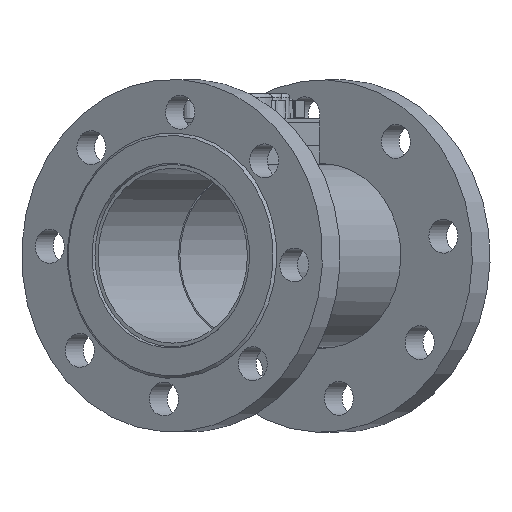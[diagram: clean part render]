
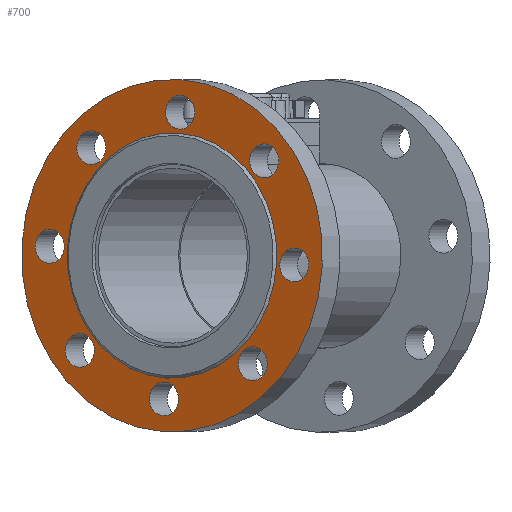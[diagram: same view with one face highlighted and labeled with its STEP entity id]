
A CAD part, top view. The second image highlights one B-rep face of the part: STEP entity #700.
In plain terms, the highlighted planar face has unit normal (-0.522, 0, 0.853) as drawn and (0, 0, 1) by its records, which use the part's own axes.
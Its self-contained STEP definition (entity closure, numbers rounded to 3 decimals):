
#700 = ADVANCED_FACE( '', ( #1462, #1463, #1464, #1465, #1466, #1467, #1468, #1469, #1470, #1471 ), #1472, .T. );
#1462 = FACE_BOUND( '', #4213, .T. );
#1463 = FACE_BOUND( '', #4214, .T. );
#1464 = FACE_BOUND( '', #4215, .T. );
#1465 = FACE_BOUND( '', #4216, .T. );
#1466 = FACE_BOUND( '', #4217, .T. );
#1467 = FACE_BOUND( '', #4218, .T. );
#1468 = FACE_BOUND( '', #4219, .T. );
#1469 = FACE_BOUND( '', #4220, .T. );
#1470 = FACE_OUTER_BOUND( '', #4221, .T. );
#1471 = FACE_BOUND( '', #4222, .T. );
#1472 = PLANE( '', #4223 );
#4213 = EDGE_LOOP( '', ( #6847 ) );
#4214 = EDGE_LOOP( '', ( #6848 ) );
#4215 = EDGE_LOOP( '', ( #6849 ) );
#4216 = EDGE_LOOP( '', ( #6850 ) );
#4217 = EDGE_LOOP( '', ( #6851 ) );
#4218 = EDGE_LOOP( '', ( #6852 ) );
#4219 = EDGE_LOOP( '', ( #6853 ) );
#4220 = EDGE_LOOP( '', ( #6854 ) );
#4221 = EDGE_LOOP( '', ( #6855 ) );
#4222 = EDGE_LOOP( '', ( #6856 ) );
#4223 = AXIS2_PLACEMENT_3D( '', #6857, #6858, #6859 );
#6847 = ORIENTED_EDGE( '', *, *, #8044, .T. );
#6848 = ORIENTED_EDGE( '', *, *, #8090, .T. );
#6849 = ORIENTED_EDGE( '', *, *, #8141, .T. );
#6850 = ORIENTED_EDGE( '', *, *, #8483, .T. );
#6851 = ORIENTED_EDGE( '', *, *, #8484, .T. );
#6852 = ORIENTED_EDGE( '', *, *, #8093, .T. );
#6853 = ORIENTED_EDGE( '', *, *, #8485, .T. );
#6854 = ORIENTED_EDGE( '', *, *, #8486, .T. );
#6855 = ORIENTED_EDGE( '', *, *, #8487, .T. );
#6856 = ORIENTED_EDGE( '', *, *, #8488, .F. );
#6857 = CARTESIAN_POINT( '', ( 135., 0., 17.859 ) );
#6858 = DIRECTION( '', ( 0., 0., 1. ) );
#6859 = DIRECTION( '', ( 1., 0., 0. ) );
#8044 = EDGE_CURVE( '', #8900, #8900, #8901, .T. );
#8090 = EDGE_CURVE( '', #8979, #8979, #8980, .T. );
#8093 = EDGE_CURVE( '', #8984, #8984, #8985, .T. );
#8141 = EDGE_CURVE( '', #9066, #9066, #9067, .T. );
#8483 = EDGE_CURVE( '', #9591, #9591, #9592, .T. );
#8484 = EDGE_CURVE( '', #9593, #9593, #9594, .T. );
#8485 = EDGE_CURVE( '', #9595, #9595, #9596, .T. );
#8486 = EDGE_CURVE( '', #9597, #9597, #9598, .T. );
#8487 = EDGE_CURVE( '', #9599, #9599, #9600, .T. );
#8488 = EDGE_CURVE( '', #9601, #9601, #9602, .T. );
#8900 = VERTEX_POINT( '', #10224 );
#8901 = CIRCLE( '', #10225, 13. );
#8979 = VERTEX_POINT( '', #10395 );
#8980 = CIRCLE( '', #10396, 13. );
#8984 = VERTEX_POINT( '', #10400 );
#8985 = CIRCLE( '', #10401, 13. );
#9066 = VERTEX_POINT( '', #10620 );
#9067 = CIRCLE( '', #10621, 13. );
#9591 = VERTEX_POINT( '', #11903 );
#9592 = CIRCLE( '', #11904, 13. );
#9593 = VERTEX_POINT( '', #11905 );
#9594 = CIRCLE( '', #11906, 13. );
#9595 = VERTEX_POINT( '', #11907 );
#9596 = CIRCLE( '', #11908, 13. );
#9597 = VERTEX_POINT( '', #11909 );
#9598 = CIRCLE( '', #11910, 13. );
#9599 = VERTEX_POINT( '', #11911 );
#9600 = CIRCLE( '', #11912, 135. );
#9601 = VERTEX_POINT( '', #11913 );
#9602 = CIRCLE( '', #11914, 94. );
#10224 = CARTESIAN_POINT( '', ( -110., -13., 17.859 ) );
#10225 = AXIS2_PLACEMENT_3D( '', #12744, #12745, #12746 );
#10395 = CARTESIAN_POINT( '', ( -77.782, -90.782, 17.859 ) );
#10396 = AXIS2_PLACEMENT_3D( '', #12813, #12814, #12815 );
#10400 = CARTESIAN_POINT( '', ( 77.782, 64.782, 17.859 ) );
#10401 = AXIS2_PLACEMENT_3D( '', #12819, #12820, #12821 );
#10620 = CARTESIAN_POINT( '', ( 0., -123., 17.859 ) );
#10621 = AXIS2_PLACEMENT_3D( '', #12889, #12890, #12891 );
#11903 = CARTESIAN_POINT( '', ( 77.782, -90.782, 17.859 ) );
#11904 = AXIS2_PLACEMENT_3D( '', #13368, #13369, #13370 );
#11905 = CARTESIAN_POINT( '', ( 110., -13., 17.859 ) );
#11906 = AXIS2_PLACEMENT_3D( '', #13371, #13372, #13373 );
#11907 = CARTESIAN_POINT( '', ( 0., 97., 17.859 ) );
#11908 = AXIS2_PLACEMENT_3D( '', #13374, #13375, #13376 );
#11909 = CARTESIAN_POINT( '', ( -77.782, 64.782, 17.859 ) );
#11910 = AXIS2_PLACEMENT_3D( '', #13377, #13378, #13379 );
#11911 = CARTESIAN_POINT( '', ( 135., 0., 17.859 ) );
#11912 = AXIS2_PLACEMENT_3D( '', #13380, #13381, #13382 );
#11913 = CARTESIAN_POINT( '', ( 94., 0., 17.859 ) );
#11914 = AXIS2_PLACEMENT_3D( '', #13383, #13384, #13385 );
#12744 = CARTESIAN_POINT( '', ( -110., 0., 17.859 ) );
#12745 = DIRECTION( '', ( 0., 0., -1. ) );
#12746 = DIRECTION( '', ( 0., -1., 0. ) );
#12813 = CARTESIAN_POINT( '', ( -77.782, -77.782, 17.859 ) );
#12814 = DIRECTION( '', ( 0., 0., -1. ) );
#12815 = DIRECTION( '', ( 0., -1., 0. ) );
#12819 = CARTESIAN_POINT( '', ( 77.782, 77.782, 17.859 ) );
#12820 = DIRECTION( '', ( 0., 0., -1. ) );
#12821 = DIRECTION( '', ( 0., -1., 0. ) );
#12889 = CARTESIAN_POINT( '', ( 0., -110., 17.859 ) );
#12890 = DIRECTION( '', ( 0., 0., -1. ) );
#12891 = DIRECTION( '', ( 0., -1., 0. ) );
#13368 = CARTESIAN_POINT( '', ( 77.782, -77.782, 17.859 ) );
#13369 = DIRECTION( '', ( 0., 0., -1. ) );
#13370 = DIRECTION( '', ( 0., -1., 0. ) );
#13371 = CARTESIAN_POINT( '', ( 110., 0., 17.859 ) );
#13372 = DIRECTION( '', ( 0., 0., -1. ) );
#13373 = DIRECTION( '', ( 0., -1., 0. ) );
#13374 = CARTESIAN_POINT( '', ( 0., 110., 17.859 ) );
#13375 = DIRECTION( '', ( 0., 0., -1. ) );
#13376 = DIRECTION( '', ( 0., -1., 0. ) );
#13377 = CARTESIAN_POINT( '', ( -77.782, 77.782, 17.859 ) );
#13378 = DIRECTION( '', ( 0., 0., -1. ) );
#13379 = DIRECTION( '', ( 0., -1., 0. ) );
#13380 = CARTESIAN_POINT( '', ( 0., 0., 17.859 ) );
#13381 = DIRECTION( '', ( 0., 0., 1. ) );
#13382 = DIRECTION( '', ( 1., 0., 0. ) );
#13383 = CARTESIAN_POINT( '', ( 0., 0., 17.859 ) );
#13384 = DIRECTION( '', ( 0., 0., 1. ) );
#13385 = DIRECTION( '', ( 1., 0., 0. ) );
